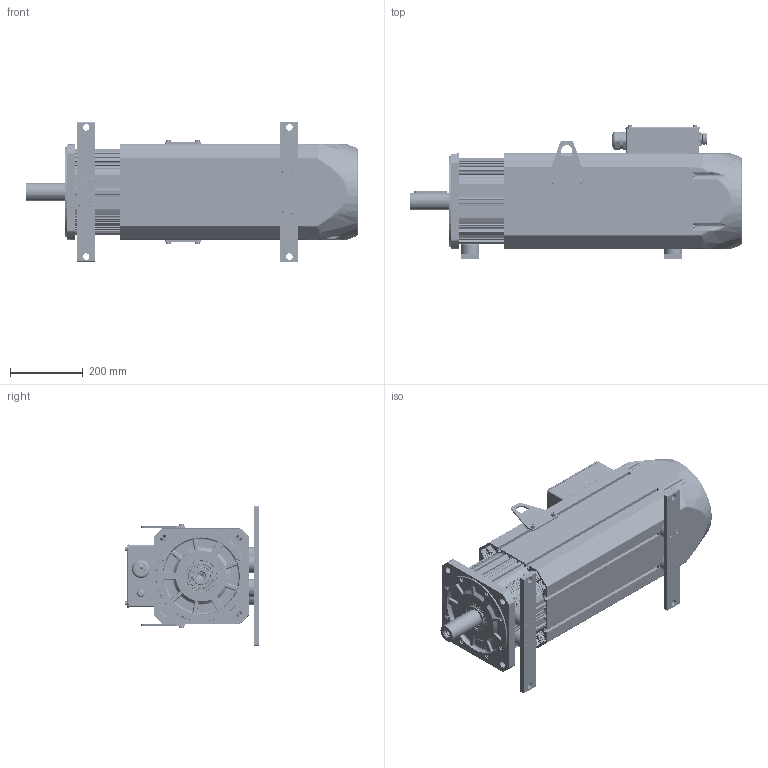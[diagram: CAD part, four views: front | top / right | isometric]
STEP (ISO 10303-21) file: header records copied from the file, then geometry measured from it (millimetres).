
FILE_DESCRIPTION((''),'2;1');
FILE_NAME('IMS20B-26M74D20C-4-R7F-A_ASM','2025-08-25T09:49:32',('0108698'),(''),'CREO PARAMETRIC BY PTC INC, 2019080','CREO PARAMETRIC BY PTC INC, 2019080','');
FILE_SCHEMA(('CONFIG_CONTROL_DESIGN'));
Products named in the file (72): 263T360_A; 631000; 80100320_AF0; 2630002_ASM; 2630003; 2630004; M6X160001; 50058-00152_AF0; 2630001_ASM; 263559_A; 2630005_ASM; 80100323_AF0; 263000_ASM; 50057-00008; 50036-00052; 50060-00059; 2630007_ASM; 2630009; 15000; 2630008_ASM; 50034-00098; _0001; 0001; 50051-00002; PDLD_4X12; 2630011; 00; M8X3000; 800; 0003; 0004; L990001; 2630010_ASM; 0005; ISO7045-M4X6-4_8; 0006; ISO7045-M4X8-4_8; WXJXDZ_40200-01002; 0007; _0002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
Assembly tree (142 placements, depth 4):
  IMS20B-26M74D20C-4-R7F-A_ASM
    2630001_ASM
      263T360_A
      631000
      2630002_ASM
        80100320_AF0
      2630003
      2630004
      M6X160001  x6
      50058-00152_AF0
    2630005_ASM
      263559_A
    263000_ASM
      80100323_AF0
    2630007_ASM
      50057-00008
      50036-00052
      50060-00059  x4
    2630008_ASM
      2630009
      15000
    50034-00098
    12116-00061_ASM
      _0001
      0001
      50051-00002
      PDLD_4X12  x4
      2630010_ASM
        2630011
        00  x3
        M8X3000  x6
        800  x6
        800  x6
        0003  x4
        0004
        L990001
      0005
      ISO7045-M4X6-4_8  x2
      0006
      ISO7045-M4X8-4_8
      WXJXDZ_40200-01002  x4
      0007
      _0002
      50060-00134  x4
      0008
      PG11
      PG36
    50034-00031  x2
    50034-00026  x2
    50058-00151_AF0
    50060-00071  x4
    50058-00152_AF1
    50060-00135  x4
    50058-00150
    50066-00059
    50060-00076  x4
    12118-00004_ASM
      80310919
      50034-00012
      80310916  x2
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Bounding box: 915 x 371 x 384 mm (x, y, z)
Volume: 18336732.7 mm3; surface area: 4488873.3 mm2
Topology: 148 solids, 260 shells, 7714 faces, 20132 edges, 13031 vertices
Faces by surface type: plane 3573, cylinder 2778, cone 505, bspline 481, torus 329, revolution 24, sphere 24
Entity records: 228423 total; most frequent: CARTESIAN_POINT 70520, DIRECTION 33163, ORIENTED_EDGE 32704, EDGE_CURVE 16484, AXIS2_PLACEMENT_3D 11953, VERTEX_POINT 10717, VECTOR 9233, LINE 9233
